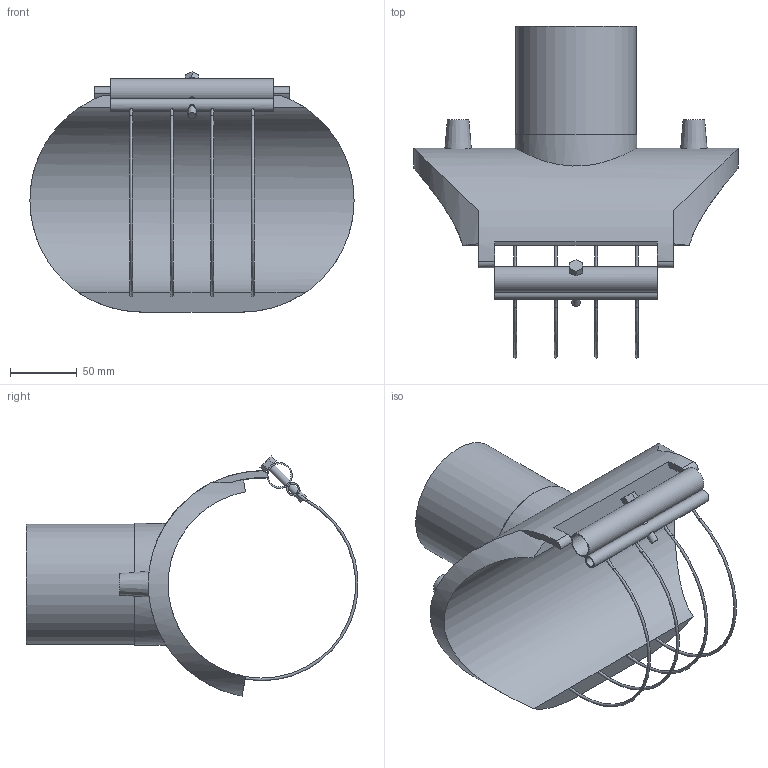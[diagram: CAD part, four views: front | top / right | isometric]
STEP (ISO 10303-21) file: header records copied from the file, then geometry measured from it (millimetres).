
FILE_DESCRIPTION(/* description */ ('Plasson Branch Saddle 140x90'),/* implementation_level */ '2;1');
FILE_NAME(/* name */ 'C:\Dropbox\KIMPROJECTS-Inventor 2019\99-16-3568-Processing\ElectroFusion Fittings\4958X4\4958X4140090T.stp',/* time_stamp */ '2025-05-07T12:15:06+03:00',/* author */ ('KIM'),/* organization */ (''),/* preprocessor_version */ 'ST-DEVELOPER v18.1',/* originating_system */ 'Autodesk Inventor 2021',/* authorisation */ '');
FILE_SCHEMA (('AUTOMOTIVE_DESIGN { 1 0 10303 214 3 1 1 }'));
Length unit declared in the file: millimetre
Products named in the file (1): 4958X4140090T
Bounding box: 242 x 247.77 x 179.22 mm (x, y, z)
Volume: 892243 mm3; surface area: 184452.3 mm2
Topology: 1 solids, 1 shells, 63 faces, 178 edges, 115 vertices
Faces by surface type: cylinder 28, plane 25, torus 8, cone 2
Full cylindrical faces by diameter (mm): 6 x3, 7.6 x1, 8 x1, 16 x1, 17.2 x1, 73 x1, 90 x1, 91 x1
Entity records: 2937 total; most frequent: CARTESIAN_POINT 1242, ORIENTED_EDGE 360, DIRECTION 331, EDGE_CURVE 180, AXIS2_PLACEMENT_3D 135, VERTEX_POINT 115, EDGE_LOOP 81, CIRCLE 67
